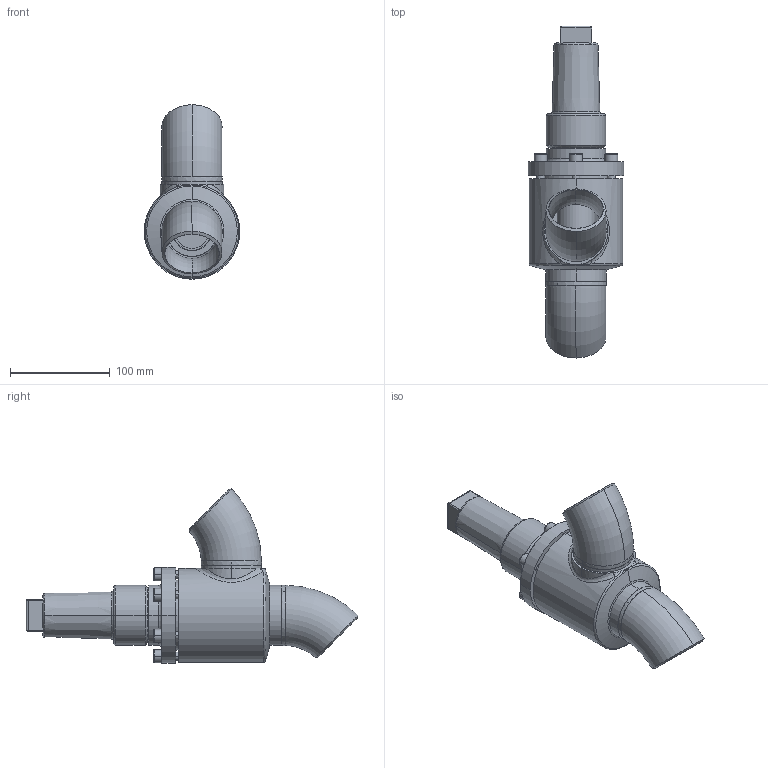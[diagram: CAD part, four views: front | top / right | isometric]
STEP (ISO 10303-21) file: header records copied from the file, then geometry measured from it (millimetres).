
FILE_DESCRIPTION (( 'STEP AP214' ), '1' );
FILE_NAME ('HRAB12300D15-DN050_R1_PS40.STEP', '2006-04-27T11:55:03', ( 'Herr Grams' ), ( 'AWP GmbH' ), 'SwSTEP 2.0', 'SolidWorks 2002296', '' );
FILE_SCHEMA (( 'AUTOMOTIVE_DESIGN' ));
Length unit declared in the file: millimetre
Products named in the file (10): HRAB12300D15-DN050_R1_PS40; Gehäuse-kpl16300-DN050_R1_Standard; Gehäuse16300-DN050_Standard; Rohrbogen 45°_R1-Fase_Rohrbogen-DN050-45°; bead16300-Geh-050-2_Standard; bead16300-Geh-050-1_Standard; AVB16300E15_Deck+Schr-DN40-50_Standard; Deckel16300E15-DN40-50_Standard; Zylinderschraube-DIN912_M 8x 25; Kappe16402_DN040-65_Standard
Assembly tree (15 placements, depth 3):
  HRAB12300D15-DN050_R1_PS40
    AVB16300E15_Deck+Schr-DN40-50_Standard
      Zylinderschraube-DIN912_M 8x 25  x6
      Deckel16300E15-DN40-50_Standard
    Kappe16402_DN040-65_Standard
    Gehäuse-kpl16300-DN050_R1_Standard
      bead16300-Geh-050-1_Standard
      bead16300-Geh-050-2_Standard
      Rohrbogen 45°_R1-Fase_Rohrbogen-DN050-45°  x2
      Gehäuse16300-DN050_Standard
Bounding box: 96 x 332.93 x 174.93 mm (x, y, z)
Volume: 736525.4 mm3; surface area: 185371.6 mm2
Topology: 13 solids, 13 shells, 288 faces, 641 edges, 404 vertices
Faces by surface type: plane 97, cylinder 97, cone 50, torus 33, bspline 11
Entity records: 35748 total; most frequent: CARTESIAN_POINT 30761, DIRECTION 938, ORIENTED_EDGE 858, EDGE_CURVE 429, AXIS2_PLACEMENT_3D 398, VERTEX_POINT 270, EDGE_LOOP 225, CIRCLE 201
